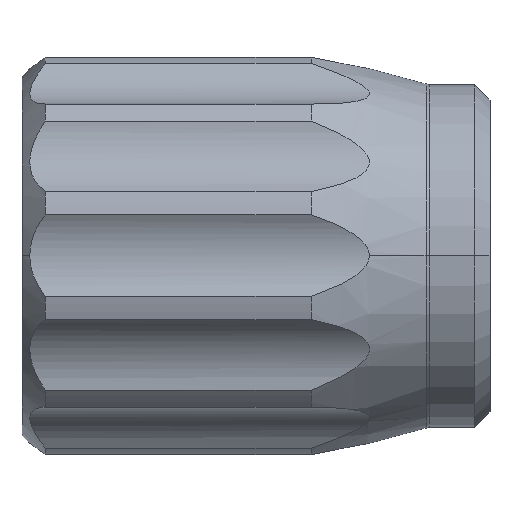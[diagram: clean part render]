
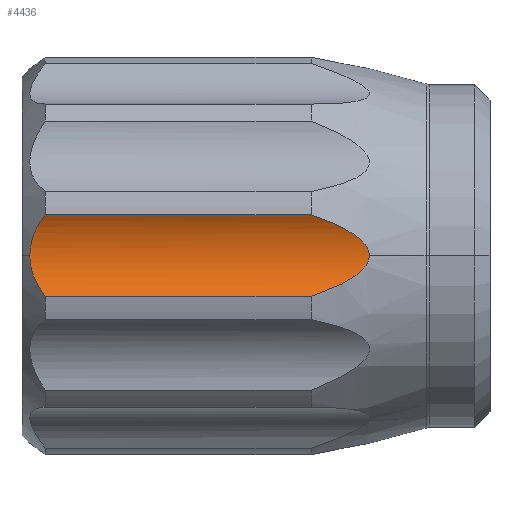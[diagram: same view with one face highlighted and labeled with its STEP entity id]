
A CAD part, top view. The second image highlights one B-rep face of the part: STEP entity #4436.
In plain terms, the highlighted cylindrical face has radius 5 mm (diameter 10 mm), a partial arc.
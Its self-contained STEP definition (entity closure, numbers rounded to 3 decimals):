
#223 = EDGE_CURVE ( 'NONE', #6159, #3342, #4313, .T. ) ;
#235 = EDGE_CURVE ( 'NONE', #3342, #6065, #3369, .T. ) ;
#264 = CARTESIAN_POINT ( 'NONE',  ( -19.902, 3.805, 13.445 ) ) ;
#268 = CARTESIAN_POINT ( 'NONE',  ( -19.101, 2.399, 14.038 ) ) ;
#381 = CARTESIAN_POINT ( 'NONE',  ( -19.902, 6.213, 13.445 ) ) ;
#501 = EDGE_CURVE ( 'NONE', #3160, #6065, #6448, .T. ) ;
#512 = CARTESIAN_POINT ( 'NONE',  ( -1.319, 7.359, 13.887 ) ) ;
#636 = CARTESIAN_POINT ( 'NONE',  ( -19.101, 7.619, 14.038 ) ) ;
#774 = CARTESIAN_POINT ( 'NONE',  ( -19.241, 7.444, 13.931 ) ) ;
#822 = CARTESIAN_POINT ( 'NONE',  ( -19.719, 6.657, 13.577 ) ) ;
#826 = EDGE_CURVE ( 'NONE', #6159, #3592, #2752, .T. ) ;
#932 = CARTESIAN_POINT ( 'NONE',  ( -1.69, 2.525, 13.962 ) ) ;
#1183 = CARTESIAN_POINT ( 'NONE',  ( 1.439, 5.67, 13.346 ) ) ;
#1214 = CARTESIAN_POINT ( 'NONE',  ( 1.597, 5.412, 13.316 ) ) ;
#1226 = CARTESIAN_POINT ( 'NONE',  ( -19.101, 2.399, 14.038 ) ) ;
#1243 = CARTESIAN_POINT ( 'NONE',  ( -1.319, 2.659, 13.886 ) ) ;
#1301 = CARTESIAN_POINT ( 'NONE',  ( -2.065, 2.399, 14.038 ) ) ;
#1336 = EDGE_CURVE ( 'NONE', #3592, #2195, #8251, .T. ) ;
#1410 = CARTESIAN_POINT ( 'NONE',  ( -0.587, 2.958, 13.74 ) ) ;
#1488 = CARTESIAN_POINT ( 'NONE',  ( -0.226, 3.122, 13.668 ) ) ;
#1578 = CARTESIAN_POINT ( 'NONE',  ( 0.298, 3.406, 13.566 ) ) ;
#1621 = CARTESIAN_POINT ( 'NONE',  ( 0.469, 3.507, 13.533 ) ) ;
#1625 = CARTESIAN_POINT ( 'NONE',  ( -19.975, 5.983, 13.393 ) ) ;
#1669 = CARTESIAN_POINT ( 'NONE',  ( 0.8, 3.728, 13.469 ) ) ;
#1734 = CARTESIAN_POINT ( 'NONE',  ( 0.96, 3.848, 13.438 ) ) ;
#1745 = EDGE_CURVE ( 'NONE', #2195, #3160, #6241, .T. ) ;
#1763 = CARTESIAN_POINT ( 'NONE',  ( 1.179, 4.048, 13.396 ) ) ;
#1831 = CARTESIAN_POINT ( 'NONE',  ( 0.953, 6.175, 13.439 ) ) ;
#1847 = CARTESIAN_POINT ( 'NONE',  ( 1.249, 4.119, 13.382 ) ) ;
#1933 = CARTESIAN_POINT ( 'NONE',  ( -2.065, 2.399, 14.038 ) ) ;
#1935 = CARTESIAN_POINT ( 'NONE',  ( 1.38, 4.269, 13.358 ) ) ;
#1983 = CARTESIAN_POINT ( 'NONE',  ( 1.441, 4.351, 13.346 ) ) ;
#2035 = CARTESIAN_POINT ( 'NONE',  ( 1.598, 4.609, 13.316 ) ) ;
#2122 = CARTESIAN_POINT ( 'NONE',  ( 1.667, 4.805, 13.303 ) ) ;
#2184 = CARTESIAN_POINT ( 'NONE',  ( 1.667, 5.009, 13.303 ) ) ;
#2195 = VERTEX_POINT ( 'NONE', #4874 ) ;
#2507 = CARTESIAN_POINT ( 'NONE',  ( 0.792, 6.296, 13.47 ) ) ;
#2752 = LINE ( 'NONE', #5676, #2941 ) ;
#2941 = VECTOR ( 'NONE', #5678, 1000. ) ;
#3111 = CARTESIAN_POINT ( 'NONE',  ( 1.246, 5.903, 13.383 ) ) ;
#3144 = CARTESIAN_POINT ( 'NONE',  ( 0.289, 6.617, 13.568 ) ) ;
#3160 = VERTEX_POINT ( 'NONE', #7134 ) ;
#3175 = ORIENTED_EDGE ( 'NONE', *, *, #826, .T. ) ;
#3191 = DIRECTION ( 'NONE',  ( 0., 0., 1. ) ) ;
#3342 = VERTEX_POINT ( 'NONE', #3518 ) ;
#3368 = ORIENTED_EDGE ( 'NONE', *, *, #223, .F. ) ;
#3369 = B_SPLINE_CURVE_WITH_KNOTS ( 'NONE', 3,
 ( #7593, #6822, #6790, #1625, #381, #822, #6815, #5807, #774, #636 ),
 .UNSPECIFIED., .F., .F.,
 ( 4, 2, 2, 2, 4 ),
 ( 0.003, 0.004, 0.004, 0.005, 0.006 ),
 .UNSPECIFIED. ) ;
#3389 = CARTESIAN_POINT ( 'NONE',  ( 9.399, 5.009, 18.303 ) ) ;
#3518 = CARTESIAN_POINT ( 'NONE',  ( -20.101, 5.009, 13.303 ) ) ;
#3550 = DIRECTION ( 'NONE',  ( -1., 0., 0. ) ) ;
#3592 = VERTEX_POINT ( 'NONE', #1933 ) ;
#3638 = CARTESIAN_POINT ( 'NONE',  ( -20.069, 4.518, 13.326 ) ) ;
#3763 = CARTESIAN_POINT ( 'NONE',  ( -0.231, 6.898, 13.67 ) ) ;
#3858 = AXIS2_PLACEMENT_3D ( 'NONE', #3389, #3550, #3191 ) ;
#4313 = B_SPLINE_CURVE_WITH_KNOTS ( 'NONE', 3,
 ( #1226, #6457, #7145, #8237, #8358, #264, #6767, #8333, #3638, #8368, #7223, #6459 ),
 .UNSPECIFIED., .F., .F.,
 ( 4, 2, 2, 2, 2, 4 ),
 ( 0., 0.001, 0.001, 0.002, 0.003, 0.003 ),
 .UNSPECIFIED. ) ;
#4325 = CARTESIAN_POINT ( 'NONE',  ( -5.601, 7.619, 14.038 ) ) ;
#4400 = DIRECTION ( 'NONE',  ( -1., 0., 0. ) ) ;
#4436 = ADVANCED_FACE ( 'NONE', ( #6773 ), #6558, .F. ) ;
#4874 = CARTESIAN_POINT ( 'NONE',  ( 1.667, 5.009, 13.303 ) ) ;
#4940 = CARTESIAN_POINT ( 'NONE',  ( -1.691, 7.494, 13.962 ) ) ;
#4984 = ORIENTED_EDGE ( 'NONE', *, *, #501, .T. ) ;
#5161 = ORIENTED_EDGE ( 'NONE', *, *, #1745, .T. ) ;
#5578 = CARTESIAN_POINT ( 'NONE',  ( 1.378, 5.751, 13.358 ) ) ;
#5602 = CARTESIAN_POINT ( 'NONE',  ( -2.065, 7.619, 14.038 ) ) ;
#5676 = CARTESIAN_POINT ( 'NONE',  ( -5.601, 2.399, 14.038 ) ) ;
#5678 = DIRECTION ( 'NONE',  ( 1., 0., 0. ) ) ;
#5807 = CARTESIAN_POINT ( 'NONE',  ( -19.372, 7.259, 13.833 ) ) ;
#6065 = VERTEX_POINT ( 'NONE', #6284 ) ;
#6159 = VERTEX_POINT ( 'NONE', #268 ) ;
#6167 = ORIENTED_EDGE ( 'NONE', *, *, #235, .F. ) ;
#6241 = B_SPLINE_CURVE_WITH_KNOTS ( 'NONE', 3,
 ( #6242, #7607, #1214, #1183, #5578, #3111, #7549, #1831, #2507, #6912, #3144, #3763, #8252, #512, #4940, #5602 ),
 .UNSPECIFIED., .F., .F.,
 ( 4, 2, 2, 2, 2, 2, 2, 4 ),
 ( 0.005, 0.005, 0.006, 0.006, 0.007, 0.007, 0.008, 0.01 ),
 .UNSPECIFIED. ) ;
#6242 = CARTESIAN_POINT ( 'NONE',  ( 1.667, 5.009, 13.303 ) ) ;
#6284 = CARTESIAN_POINT ( 'NONE',  ( -19.101, 7.619, 14.038 ) ) ;
#6448 = LINE ( 'NONE', #4325, #6560 ) ;
#6457 = CARTESIAN_POINT ( 'NONE',  ( -19.241, 2.574, 13.931 ) ) ;
#6459 = CARTESIAN_POINT ( 'NONE',  ( -20.101, 5.009, 13.303 ) ) ;
#6558 = CYLINDRICAL_SURFACE ( 'NONE', #3858, 5. ) ;
#6560 = VECTOR ( 'NONE', #4400, 1000. ) ;
#6767 = CARTESIAN_POINT ( 'NONE',  ( -19.974, 4.035, 13.393 ) ) ;
#6773 = FACE_OUTER_BOUND ( 'NONE', #7622, .T. ) ;
#6790 = CARTESIAN_POINT ( 'NONE',  ( -20.075, 5.502, 13.322 ) ) ;
#6815 = CARTESIAN_POINT ( 'NONE',  ( -19.611, 6.866, 13.656 ) ) ;
#6822 = CARTESIAN_POINT ( 'NONE',  ( -20.101, 5.254, 13.303 ) ) ;
#6912 = CARTESIAN_POINT ( 'NONE',  ( 0.46, 6.517, 13.534 ) ) ;
#7066 = ORIENTED_EDGE ( 'NONE', *, *, #1336, .T. ) ;
#7134 = CARTESIAN_POINT ( 'NONE',  ( -2.065, 7.619, 14.038 ) ) ;
#7145 = CARTESIAN_POINT ( 'NONE',  ( -19.372, 2.759, 13.833 ) ) ;
#7223 = CARTESIAN_POINT ( 'NONE',  ( -20.101, 4.886, 13.303 ) ) ;
#7549 = CARTESIAN_POINT ( 'NONE',  ( 1.175, 5.974, 13.397 ) ) ;
#7593 = CARTESIAN_POINT ( 'NONE',  ( -20.101, 5.009, 13.303 ) ) ;
#7607 = CARTESIAN_POINT ( 'NONE',  ( 1.667, 5.214, 13.303 ) ) ;
#7622 = EDGE_LOOP ( 'NONE', ( #7066, #5161, #4984, #6167, #3368, #3175 ) ) ;
#8237 = CARTESIAN_POINT ( 'NONE',  ( -19.611, 3.153, 13.656 ) ) ;
#8251 = B_SPLINE_CURVE_WITH_KNOTS ( 'NONE', 3,
 ( #1301, #932, #1243, #1410, #1488, #1578, #1621, #1669, #1734, #1763, #1847, #1935, #1983, #2035, #2122, #2184 ),
 .UNSPECIFIED., .F., .F.,
 ( 4, 2, 2, 2, 2, 2, 2, 4 ),
 ( 0., 0.001, 0.002, 0.003, 0.004, 0.004, 0.004, 0.005 ),
 .UNSPECIFIED. ) ;
#8252 = CARTESIAN_POINT ( 'NONE',  ( -0.59, 7.061, 13.74 ) ) ;
#8333 = CARTESIAN_POINT ( 'NONE',  ( -20.05, 4.395, 13.34 ) ) ;
#8358 = CARTESIAN_POINT ( 'NONE',  ( -19.72, 3.363, 13.576 ) ) ;
#8368 = CARTESIAN_POINT ( 'NONE',  ( -20.095, 4.764, 13.308 ) ) ;
